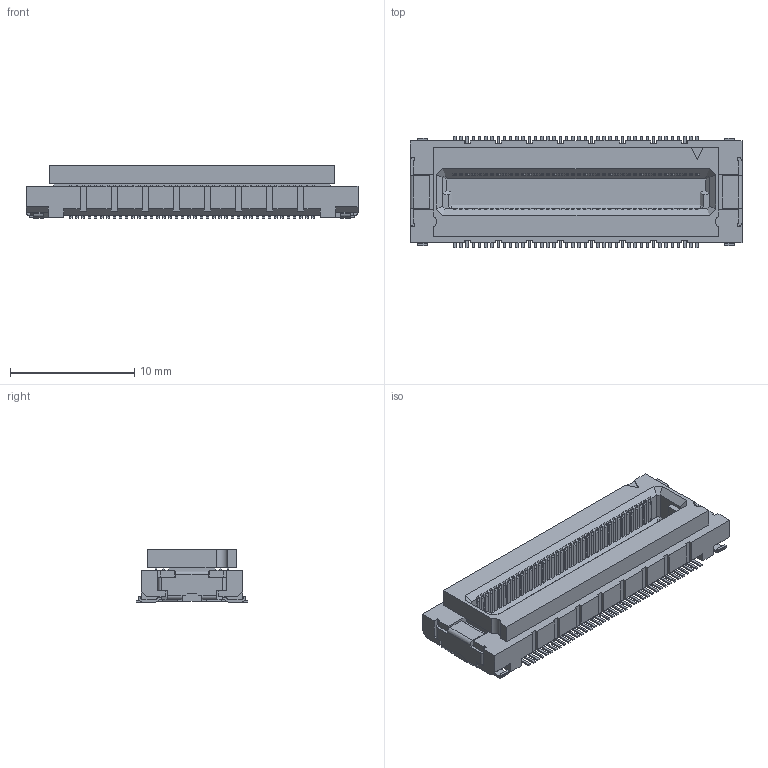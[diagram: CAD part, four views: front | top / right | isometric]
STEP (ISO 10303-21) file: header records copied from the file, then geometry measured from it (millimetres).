
FILE_DESCRIPTION(('Creo Elements/Direct Modeling STEP Export'),'2;1');
FILE_NAME('P3C784_DY04-080SB-BT.stp','2022-02-28T19:02:44',(''),(''),'Creo Elements/Direct Modeling STEP processor for AP214 (Solid Model)','Creo Elements/Direct Modeling 20.4A 18-Oct-2021 (C) Parametric Technology GmbH','');
FILE_SCHEMA(('AUTOMOTIVE_DESIGN { 1 0 10303 214 1 1 1 1 }'));
Products named in the file (2): P3C784_DY04-080SB-BT
Assembly tree (1 placements, depth 2):
  P3C784_DY04-080SB-BT
    P3C784_DY04-080SB-BT
Bounding box: 26.7 x 9 x 4.2 mm (x, y, z)
Volume: 560.8 mm3; surface area: 1272.1 mm2
Topology: 1 solids, 1 shells, 3465 faces, 9719 edges, 6418 vertices
Faces by surface type: plane 3100, cylinder 365
Entity records: 108636 total; most frequent: ORIENTED_EDGE 19438, CARTESIAN_POINT 19202, DIRECTION 16889, EDGE_CURVE 9719, VECTOR 8679, LINE 8679, VERTEX_POINT 6418, AXIS2_PLACEMENT_3D 4105
